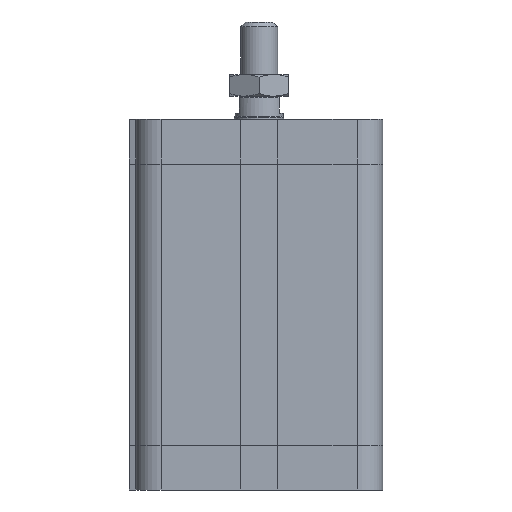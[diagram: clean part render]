
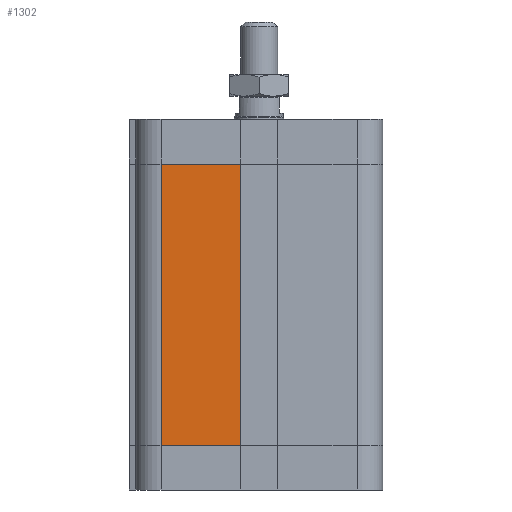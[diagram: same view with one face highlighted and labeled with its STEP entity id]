
A CAD part, left-side view. The second image highlights one B-rep face of the part: STEP entity #1302.
In plain terms, the highlighted planar face has unit normal (-1, 0, 0).
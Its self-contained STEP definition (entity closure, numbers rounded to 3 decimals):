
#1213=CARTESIAN_POINT('',(-40.,31.75,14.5));
#1214=VERTEX_POINT('',#1213);
#1222=CARTESIAN_POINT('',(-40.,31.75,105.5));
#1223=VERTEX_POINT('',#1222);
#1224=CARTESIAN_POINT('',(-40.,31.75,14.5));
#1225=DIRECTION('',(0.0,0.0,1.0));
#1226=VECTOR('',#1225,91.0);
#1227=LINE('',#1224,#1226);
#1228=EDGE_CURVE('',#1214,#1223,#1227,.T.);
#1272=CARTESIAN_POINT('',(-40.0,6.,0.0));
#1273=DIRECTION('',(-1.0,0.0,0.0));
#1274=DIRECTION('',(0.0,0.0,1.0));
#1275=AXIS2_PLACEMENT_3D('',#1272,#1273,#1274);
#1276=PLANE('',#1275);
#1277=CARTESIAN_POINT('',(-40.0,6.,14.5));
#1278=VERTEX_POINT('',#1277);
#1279=CARTESIAN_POINT('',(-40.,31.75,14.5));
#1280=DIRECTION('',(0.0,-1.0,0.0));
#1281=VECTOR('',#1280,25.75);
#1282=LINE('',#1279,#1281);
#1283=EDGE_CURVE('',#1214,#1278,#1282,.T.);
#1284=ORIENTED_EDGE('',*,*,#1283,.T.);
#1285=CARTESIAN_POINT('',(-40.0,6.,105.5));
#1286=VERTEX_POINT('',#1285);
#1287=CARTESIAN_POINT('',(-40.0,6.,14.5));
#1288=DIRECTION('',(0.0,0.0,1.0));
#1289=VECTOR('',#1288,91.0);
#1290=LINE('',#1287,#1289);
#1291=EDGE_CURVE('',#1278,#1286,#1290,.T.);
#1292=ORIENTED_EDGE('',*,*,#1291,.T.);
#1293=CARTESIAN_POINT('',(-40.,31.75,105.5));
#1294=DIRECTION('',(0.0,-1.0,0.0));
#1295=VECTOR('',#1294,25.75);
#1296=LINE('',#1293,#1295);
#1297=EDGE_CURVE('',#1223,#1286,#1296,.T.);
#1298=ORIENTED_EDGE('',*,*,#1297,.F.);
#1299=ORIENTED_EDGE('',*,*,#1228,.F.);
#1300=EDGE_LOOP('',(#1284,#1292,#1298,#1299));
#1301=FACE_OUTER_BOUND('',#1300,.T.);
#1302=ADVANCED_FACE('',(#1301),#1276,.T.);
